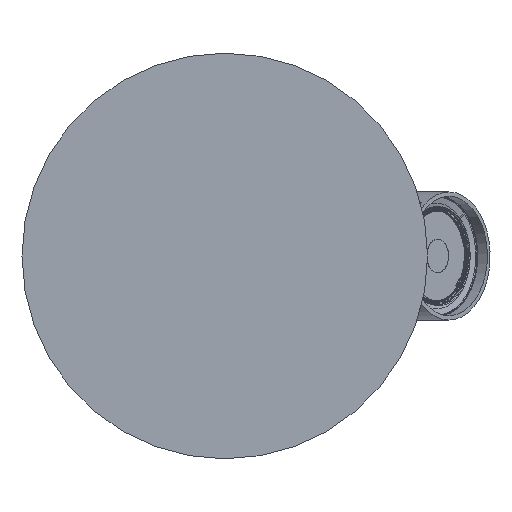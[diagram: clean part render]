
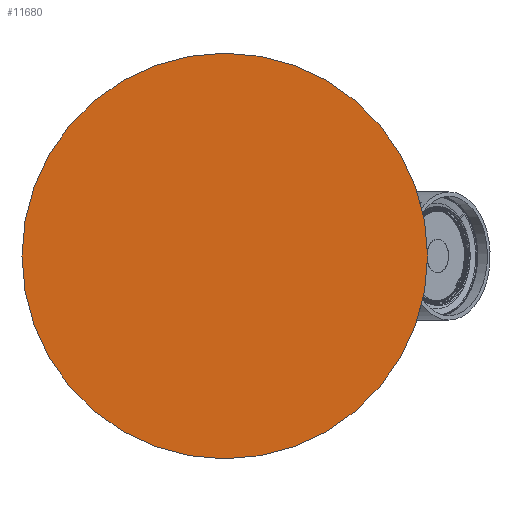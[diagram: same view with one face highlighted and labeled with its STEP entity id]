
A CAD part, front view. The second image highlights one B-rep face of the part: STEP entity #11680.
In plain terms, the highlighted planar face has unit normal (0, -1, 0).
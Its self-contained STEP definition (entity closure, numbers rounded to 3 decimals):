
#8 = CARTESIAN_POINT ( 'NONE',  ( 0., 0., 0. ) ) ;
#2004 = DIRECTION ( 'NONE',  ( 0., 1., 0. ) ) ;
#2563 = FACE_OUTER_BOUND ( 'NONE', #14657, .T. ) ;
#2980 = CARTESIAN_POINT ( 'NONE',  ( 0., 0., 0. ) ) ;
#5017 = ORIENTED_EDGE ( 'NONE', *, *, #26827, .F. ) ;
#5601 = DIRECTION ( 'NONE',  ( 0., 1., 0. ) ) ;
#8171 = CARTESIAN_POINT ( 'NONE',  ( 0., 0., -95. ) ) ;
#11000 = CIRCLE ( 'NONE', #14607, 95. ) ;
#11680 = ADVANCED_FACE ( 'NONE', ( #2563 ), #26272, .F. ) ;
#14540 = DIRECTION ( 'NONE',  ( 0., 0., 1. ) ) ;
#14607 = AXIS2_PLACEMENT_3D ( 'NONE', #23208, #5601, #14540 ) ;
#14657 = EDGE_LOOP ( 'NONE', ( #5017, #15401 ) ) ;
#15046 = CARTESIAN_POINT ( 'NONE',  ( 0., 0., 95. ) ) ;
#15401 = ORIENTED_EDGE ( 'NONE', *, *, #18676, .F. ) ;
#15487 = DIRECTION ( 'NONE',  ( 0., 1., 0. ) ) ;
#16053 = DIRECTION ( 'NONE',  ( 1., 0., 0. ) ) ;
#18676 = EDGE_CURVE ( 'NONE', #19222, #26324, #25888, .T. ) ;
#19098 = AXIS2_PLACEMENT_3D ( 'NONE', #8, #2004, #26280 ) ;
#19222 = VERTEX_POINT ( 'NONE', #15046 ) ;
#23208 = CARTESIAN_POINT ( 'NONE',  ( 0., 0., 0. ) ) ;
#25888 = CIRCLE ( 'NONE', #19098, 95. ) ;
#26272 = PLANE ( 'NONE',  #27211 ) ;
#26280 = DIRECTION ( 'NONE',  ( 0., 0., 1. ) ) ;
#26324 = VERTEX_POINT ( 'NONE', #8171 ) ;
#26827 = EDGE_CURVE ( 'NONE', #26324, #19222, #11000, .T. ) ;
#27211 = AXIS2_PLACEMENT_3D ( 'NONE', #2980, #15487, #16053 ) ;
